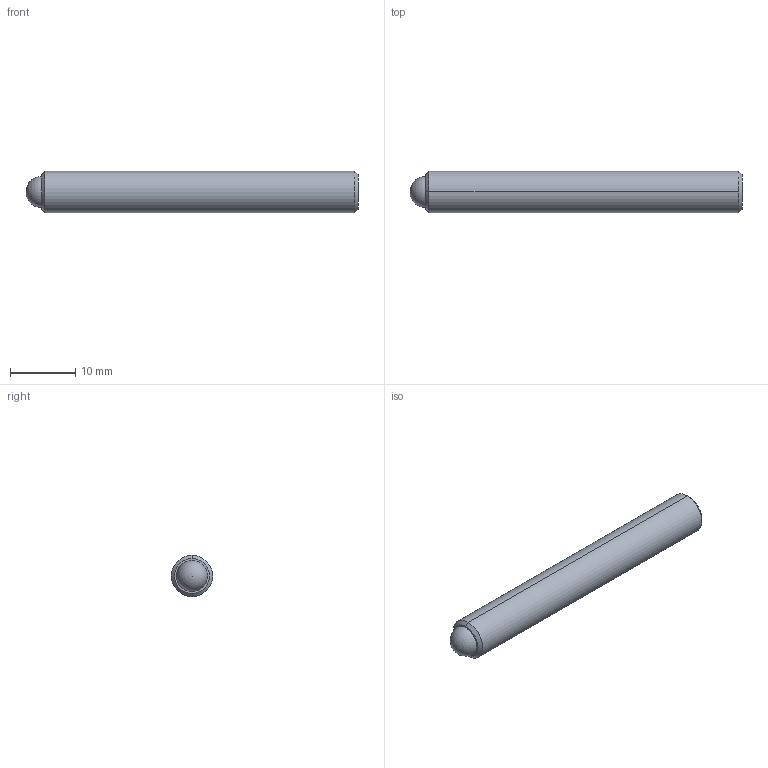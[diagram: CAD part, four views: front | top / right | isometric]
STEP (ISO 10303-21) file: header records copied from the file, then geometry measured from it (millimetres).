
FILE_DESCRIPTION (( 'STEP AP214' ), '1' );
FILE_NAME ('TS250-80-2000-AA-HV.STEP', '2013-05-10T14:41:52', ( 'workpc' ), ( 'Microsoft' ), 'SwSTEP 2.0', 'SolidWorks 2013', '' );
FILE_SCHEMA (( 'AUTOMOTIVE_DESIGN' ));
Length unit declared in the file: inch
Products named in the file (1): TS250-80-2000-AA-HV
Bounding box: 50.8 x 6.35 x 6.35 mm (x, y, z)
Volume: 1534.8 mm3; surface area: 1139.5 mm2
Topology: 2 solids, 2 shells, 24 faces, 57 edges, 37 vertices
Faces by surface type: plane 10, cylinder 8, cone 4, sphere 2
Entity records: 739 total; most frequent: DIRECTION 124, CARTESIAN_POINT 111, ORIENTED_EDGE 104, EDGE_CURVE 52, AXIS2_PLACEMENT_3D 47, VERTEX_POINT 34, VECTOR 30, LINE 30
